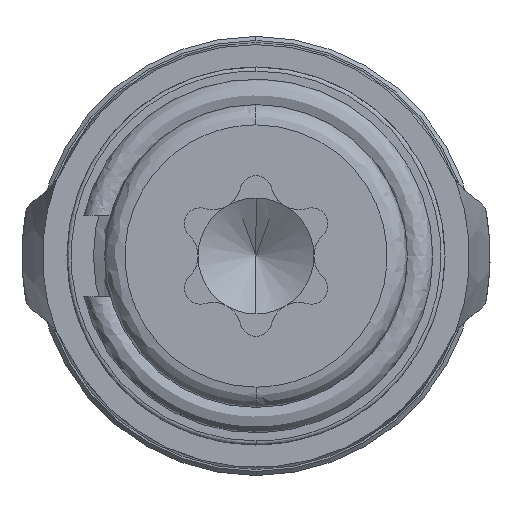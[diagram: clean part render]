
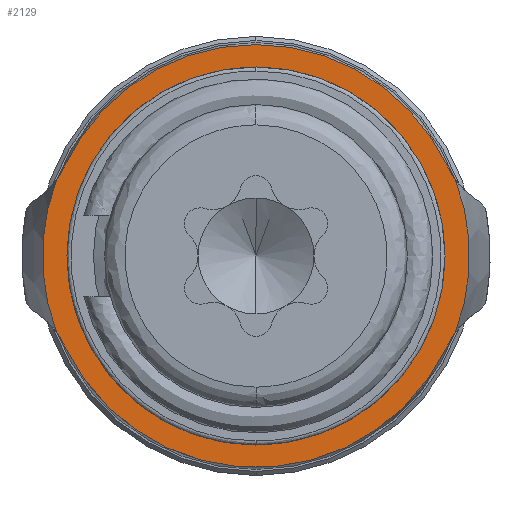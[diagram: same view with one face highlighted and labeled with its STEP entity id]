
A CAD part, front view. The second image highlights one B-rep face of the part: STEP entity #2129.
In plain terms, the highlighted planar face has unit normal (0, -1, 0).
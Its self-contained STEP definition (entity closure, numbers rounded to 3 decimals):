
#30 = CIRCLE ( 'NONE', #1971, 4.65 ) ;
#69 = CARTESIAN_POINT ( 'NONE',  ( 0., 10.05, -4.65 ) ) ;
#94 = ORIENTED_EDGE ( 'NONE', *, *, #5810, .T. ) ;
#131 = AXIS2_PLACEMENT_3D ( 'NONE', #1183, #2821, #2587 ) ;
#152 = EDGE_CURVE ( 'NONE', #3712, #1779, #1435, .T. ) ;
#442 = AXIS2_PLACEMENT_3D ( 'NONE', #3044, #2896, #2936 ) ;
#511 = CARTESIAN_POINT ( 'NONE',  ( -4.903, 10.05, -1.882 ) ) ;
#538 = CIRCLE ( 'NONE', #4265, 5.252 ) ;
#589 = CARTESIAN_POINT ( 'NONE',  ( 6.514, 10.05, -3.067 ) ) ;
#621 = CIRCLE ( 'NONE', #2469, 5.252 ) ;
#760 = AXIS2_PLACEMENT_3D ( 'NONE', #1670, #1385, #1371 ) ;
#795 = ORIENTED_EDGE ( 'NONE', *, *, #1501, .F. ) ;
#831 = DIRECTION ( 'NONE',  ( 0., 1., 0. ) ) ;
#914 = CARTESIAN_POINT ( 'NONE',  ( 4.903, 10.05, 1.882 ) ) ;
#924 = DIRECTION ( 'NONE',  ( 0., 1., 0. ) ) ;
#950 = CARTESIAN_POINT ( 'NONE',  ( 4.705, 10.05, 2.215 ) ) ;
#1181 = FACE_OUTER_BOUND ( 'NONE', #2291, .T. ) ;
#1183 = CARTESIAN_POINT ( 'NONE',  ( 0., 10.05, 0. ) ) ;
#1237 = FACE_BOUND ( 'NONE', #5149, .T. ) ;
#1285 = DIRECTION ( 'NONE',  ( 0., 1., 0. ) ) ;
#1350 = CARTESIAN_POINT ( 'NONE',  ( 0., 10.05, 0. ) ) ;
#1371 = DIRECTION ( 'NONE',  ( 0., 0., 1. ) ) ;
#1375 = DIRECTION ( 'NONE',  ( 0., 0., -1. ) ) ;
#1379 = CIRCLE ( 'NONE', #4440, 2. ) ;
#1385 = DIRECTION ( 'NONE',  ( 0., 1., 0. ) ) ;
#1435 = CIRCLE ( 'NONE', #5813, 2. ) ;
#1501 = EDGE_CURVE ( 'NONE', #5597, #1647, #30, .T. ) ;
#1520 = CARTESIAN_POINT ( 'NONE',  ( 0., 10.05, 0. ) ) ;
#1532 = ORIENTED_EDGE ( 'NONE', *, *, #4507, .F. ) ;
#1581 = CARTESIAN_POINT ( 'NONE',  ( 0., 10.05, 0. ) ) ;
#1647 = VERTEX_POINT ( 'NONE', #69 ) ;
#1670 = CARTESIAN_POINT ( 'NONE',  ( -6.514, 10.05, 3.067 ) ) ;
#1697 = EDGE_CURVE ( 'NONE', #3712, #3488, #621, .T. ) ;
#1779 = VERTEX_POINT ( 'NONE', #3495 ) ;
#1872 = DIRECTION ( 'NONE',  ( 0., 1., 0. ) ) ;
#1906 = VERTEX_POINT ( 'NONE', #4397 ) ;
#1927 = CARTESIAN_POINT ( 'NONE',  ( 4.705, 10.05, -2.215 ) ) ;
#1936 = VERTEX_POINT ( 'NONE', #3929 ) ;
#1971 = AXIS2_PLACEMENT_3D ( 'NONE', #1350, #3193, #1375 ) ;
#1979 = CIRCLE ( 'NONE', #5078, 5.2 ) ;
#1996 = CARTESIAN_POINT ( 'NONE',  ( 0., 10.05, 0. ) ) ;
#2104 = ORIENTED_EDGE ( 'NONE', *, *, #4825, .T. ) ;
#2109 = ORIENTED_EDGE ( 'NONE', *, *, #5923, .F. ) ;
#2129 = ADVANCED_FACE ( 'NONE', ( #1181, #1237 ), #3980, .T. ) ;
#2291 = EDGE_LOOP ( 'NONE', ( #5211, #94, #4186, #5685, #1532, #2104, #3783, #2659, #2109 ) ) ;
#2330 = DIRECTION ( 'NONE',  ( 0., 0., 1. ) ) ;
#2469 = AXIS2_PLACEMENT_3D ( 'NONE', #2699, #4604, #6077 ) ;
#2587 = DIRECTION ( 'NONE',  ( 0., 0., -1. ) ) ;
#2659 = ORIENTED_EDGE ( 'NONE', *, *, #3182, .T. ) ;
#2699 = CARTESIAN_POINT ( 'NONE',  ( 0., 10.05, 0. ) ) ;
#2763 = CARTESIAN_POINT ( 'NONE',  ( -4.903, 10.05, 1.882 ) ) ;
#2821 = DIRECTION ( 'NONE',  ( 0., -1., 0. ) ) ;
#2896 = DIRECTION ( 'NONE',  ( 0., 1., 0. ) ) ;
#2936 = DIRECTION ( 'NONE',  ( 0., 0., 1. ) ) ;
#3044 = CARTESIAN_POINT ( 'NONE',  ( 0., 10.05, 0. ) ) ;
#3182 = EDGE_CURVE ( 'NONE', #5188, #5540, #1379, .T. ) ;
#3193 = DIRECTION ( 'NONE',  ( 0., -1., 0. ) ) ;
#3223 = CIRCLE ( 'NONE', #131, 4.65 ) ;
#3351 = VERTEX_POINT ( 'NONE', #5080 ) ;
#3403 = DIRECTION ( 'NONE',  ( 0., 0., -1. ) ) ;
#3426 = CARTESIAN_POINT ( 'NONE',  ( 0., 10.05, 0. ) ) ;
#3488 = VERTEX_POINT ( 'NONE', #2763 ) ;
#3495 = CARTESIAN_POINT ( 'NONE',  ( -4.705, 10.05, -2.215 ) ) ;
#3544 = CARTESIAN_POINT ( 'NONE',  ( 6.514, 10.05, 3.067 ) ) ;
#3554 = AXIS2_PLACEMENT_3D ( 'NONE', #589, #924, #3800 ) ;
#3712 = VERTEX_POINT ( 'NONE', #511 ) ;
#3783 = ORIENTED_EDGE ( 'NONE', *, *, #4611, .T. ) ;
#3800 = DIRECTION ( 'NONE',  ( 0., 0., 1. ) ) ;
#3875 = EDGE_CURVE ( 'NONE', #1647, #5597, #3223, .T. ) ;
#3925 = AXIS2_PLACEMENT_3D ( 'NONE', #3426, #4146, #3403 ) ;
#3929 = CARTESIAN_POINT ( 'NONE',  ( 0., 10.05, 5.2 ) ) ;
#3980 = PLANE ( 'NONE',  #3925 ) ;
#4122 = EDGE_CURVE ( 'NONE', #1906, #1936, #1979, .T. ) ;
#4146 = DIRECTION ( 'NONE',  ( 0., -1., 0. ) ) ;
#4186 = ORIENTED_EDGE ( 'NONE', *, *, #1697, .F. ) ;
#4245 = CIRCLE ( 'NONE', #3554, 2. ) ;
#4265 = AXIS2_PLACEMENT_3D ( 'NONE', #1581, #5281, #5219 ) ;
#4397 = CARTESIAN_POINT ( 'NONE',  ( -4.705, 10.05, 2.215 ) ) ;
#4440 = AXIS2_PLACEMENT_3D ( 'NONE', #3544, #831, #2330 ) ;
#4507 = EDGE_CURVE ( 'NONE', #5839, #1779, #5593, .T. ) ;
#4509 = DIRECTION ( 'NONE',  ( 0., 0., 1. ) ) ;
#4586 = ORIENTED_EDGE ( 'NONE', *, *, #3875, .F. ) ;
#4604 = DIRECTION ( 'NONE',  ( 0., 1., 0. ) ) ;
#4611 = EDGE_CURVE ( 'NONE', #3351, #5188, #538, .T. ) ;
#4663 = AXIS2_PLACEMENT_3D ( 'NONE', #1520, #1872, #4509 ) ;
#4825 = EDGE_CURVE ( 'NONE', #5839, #3351, #4245, .T. ) ;
#5054 = CARTESIAN_POINT ( 'NONE',  ( -6.514, 10.05, -3.067 ) ) ;
#5078 = AXIS2_PLACEMENT_3D ( 'NONE', #1996, #5648, #5581 ) ;
#5080 = CARTESIAN_POINT ( 'NONE',  ( 4.903, 10.05, -1.882 ) ) ;
#5149 = EDGE_LOOP ( 'NONE', ( #4586, #795 ) ) ;
#5188 = VERTEX_POINT ( 'NONE', #914 ) ;
#5191 = CIRCLE ( 'NONE', #442, 5.2 ) ;
#5211 = ORIENTED_EDGE ( 'NONE', *, *, #4122, .F. ) ;
#5219 = DIRECTION ( 'NONE',  ( 0., 0., 1. ) ) ;
#5281 = DIRECTION ( 'NONE',  ( 0., -1., 0. ) ) ;
#5388 = CIRCLE ( 'NONE', #760, 2. ) ;
#5540 = VERTEX_POINT ( 'NONE', #950 ) ;
#5581 = DIRECTION ( 'NONE',  ( 0., 0., 1. ) ) ;
#5593 = CIRCLE ( 'NONE', #4663, 5.2 ) ;
#5597 = VERTEX_POINT ( 'NONE', #5710 ) ;
#5648 = DIRECTION ( 'NONE',  ( 0., 1., 0. ) ) ;
#5685 = ORIENTED_EDGE ( 'NONE', *, *, #152, .T. ) ;
#5710 = CARTESIAN_POINT ( 'NONE',  ( 0., 10.05, 4.65 ) ) ;
#5810 = EDGE_CURVE ( 'NONE', #1906, #3488, #5388, .T. ) ;
#5813 = AXIS2_PLACEMENT_3D ( 'NONE', #5054, #1285, #5942 ) ;
#5839 = VERTEX_POINT ( 'NONE', #1927 ) ;
#5923 = EDGE_CURVE ( 'NONE', #1936, #5540, #5191, .T. ) ;
#5942 = DIRECTION ( 'NONE',  ( 0., 0., 1. ) ) ;
#6077 = DIRECTION ( 'NONE',  ( 0., 0., 1. ) ) ;
